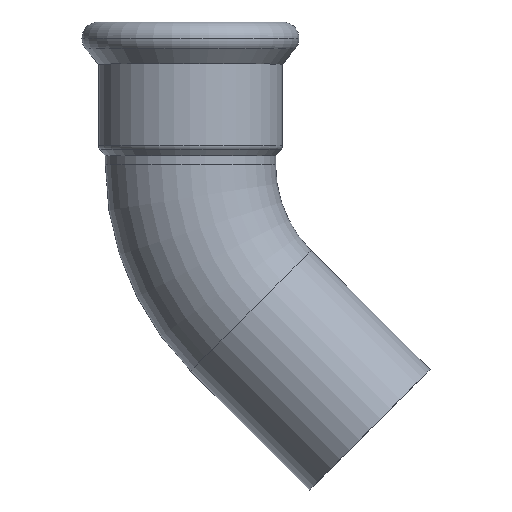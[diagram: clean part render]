
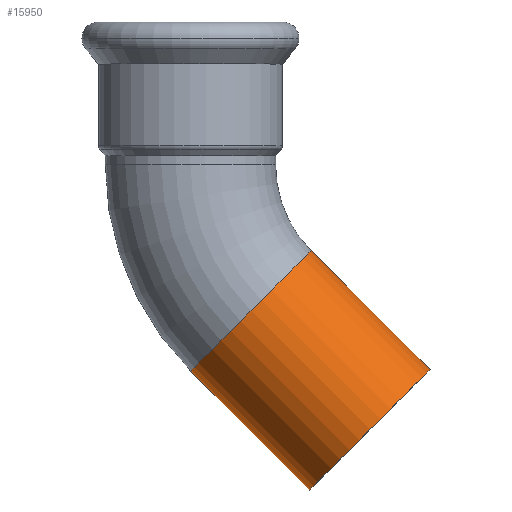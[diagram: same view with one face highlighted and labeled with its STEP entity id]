
A CAD part, top view. The second image highlights one B-rep face of the part: STEP entity #15950.
In plain terms, the highlighted cylindrical face has radius 21 mm (diameter 42 mm), a partial arc.
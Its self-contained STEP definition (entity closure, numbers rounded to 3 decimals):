
#14670=CARTESIAN_POINT('',(-35.216,158.893,0.));
#14680=DIRECTION('',(0.707,-0.707,0.));
#14690=DIRECTION('',(-0.707,-0.707,0.));
#14700=AXIS2_PLACEMENT_3D('',#14670,#14680,#14690);
#14710=CIRCLE('',#14700,21.);
#14740=CARTESIAN_POINT('',(-20.367,173.742,
0.));
#14750=VERTEX_POINT('',#14740);
#14970=CARTESIAN_POINT('',(-50.065,144.044,
0.));
#14980=VERTEX_POINT('',#14970);
#15440=CARTESIAN_POINT('',(-5.889,129.566,0.));
#15450=DIRECTION('',(-0.707,0.707,0.));
#15460=DIRECTION('',(-0.707,-0.707,0.));
#15470=AXIS2_PLACEMENT_3D('',#15440,#15450,#15460);
#15480=CIRCLE('',#15470,21.);
#15490=CARTESIAN_POINT('',(-20.738,114.717,0.));
#15500=VERTEX_POINT('',#15490);
#15510=CARTESIAN_POINT('',(8.961,144.415,
0.));
#15520=VERTEX_POINT('',#15510);
#15530=EDGE_CURVE('',#15500,#15520,#15480,.T.);
#15650=CARTESIAN_POINT('',(-35.216,158.893,0.));
#15660=DIRECTION('',(-0.707,0.707,0.));
#15670=DIRECTION('',(-0.707,-0.707,0.));
#15680=AXIS2_PLACEMENT_3D('',#15650,#15660,#15670);
#15690=CYLINDRICAL_SURFACE('',#15680,21.);
#15700=CARTESIAN_POINT('',(-20.367,173.742,
0.));
#15710=DIRECTION('',(-0.707,0.707,0.));
#15720=VECTOR('',#15710,1.);
#15730=LINE('',#15700,#15720);
#15740=EDGE_CURVE('',#15520,#14750,#15730,.T.);
#15780=CARTESIAN_POINT('',(-50.065,144.044,0.));
#15790=DIRECTION('',(-0.707,0.707,0.));
#15800=VECTOR('',#15790,1.);
#15810=LINE('',#15780,#15800);
#15820=EDGE_CURVE('',#15500,#14980,#15810,.T.);
#15880=EDGE_CURVE('',#14750,#14980,#14710,.T.);
#15890=ORIENTED_EDGE('',*,*,#15880,.T.);
#15900=ORIENTED_EDGE('',*,*,#15740,.T.);
#15910=ORIENTED_EDGE('',*,*,#15530,.T.);
#15920=ORIENTED_EDGE('',*,*,#15820,.F.);
#15930=EDGE_LOOP('',(#15920,#15910,#15900,#15890));
#15940=FACE_OUTER_BOUND('',#15930,.T.);
#15950=ADVANCED_FACE('',(#15940),#15690,.T.);
